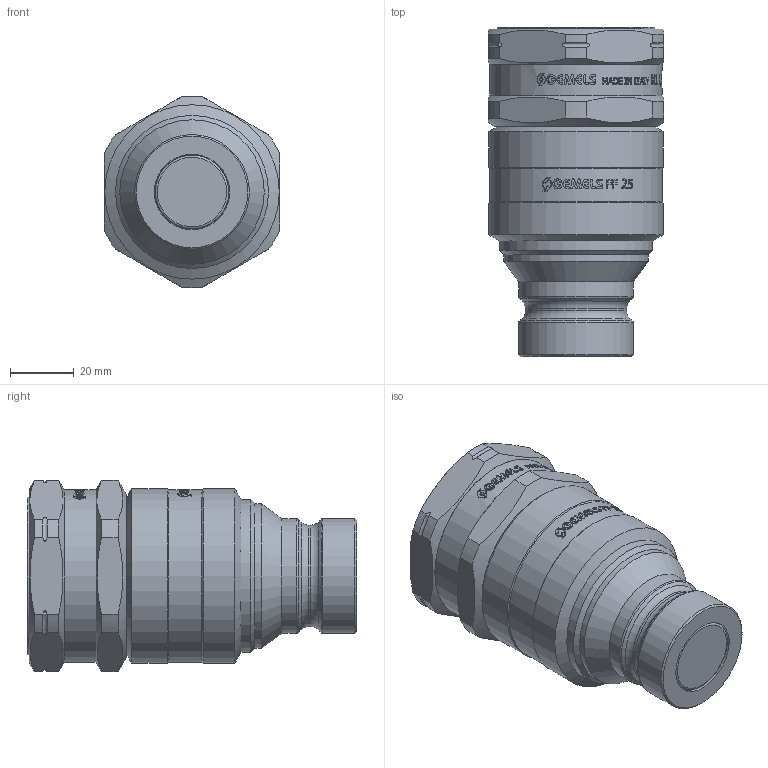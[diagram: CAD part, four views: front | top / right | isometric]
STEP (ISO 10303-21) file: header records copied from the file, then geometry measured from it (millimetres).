
FILE_DESCRIPTION(/* description */ (''),/* implementation_level */ '2;1');
FILE_NAME(/* name */ 'NC05N070000.stp',/* time_stamp */ '2024-08-26T17:45:32+02:00',/* author */ ('thomas.belotti'),/* organization */ (''),/* preprocessor_version */ 'ST-DEVELOPER v20',/* originating_system */ 'Autodesk Inventor 2024',/* authorisation */ '');
FILE_SCHEMA (('AUTOMOTIVE_DESIGN { 1 0 10303 214 3 1 1 }'));
Length unit declared in the file: millimetre
Products named in the file (1): Parte25
Bounding box: 55 x 103.2 x 59.98 mm (x, y, z)
Volume: 167414.3 mm3; surface area: 29552.7 mm2
Topology: 1 solids, 5 shells, 1098 faces, 3119 edges, 2073 vertices
Faces by surface type: bspline 696, plane 288, cylinder 81, cone 21, torus 12
Full cylindrical faces by diameter (mm): 23.7 x1, 30.838 x1, 31.9 x1, 35.513 x1, 36 x2, 44.5 x1, 45.3 x1, 46 x2, 46.3 x1, 48 x1, 49.5 x1, 54 x2, 54.7 x2
Entity records: 47180 total; most frequent: CARTESIAN_POINT 22056, ORIENTED_EDGE 6238, EDGE_CURVE 3119, DIRECTION 2868, VERTEX_POINT 2073, B_SPLINE_CURVE_WITH_KNOTS 1450, LINE 1228, VECTOR 1228
